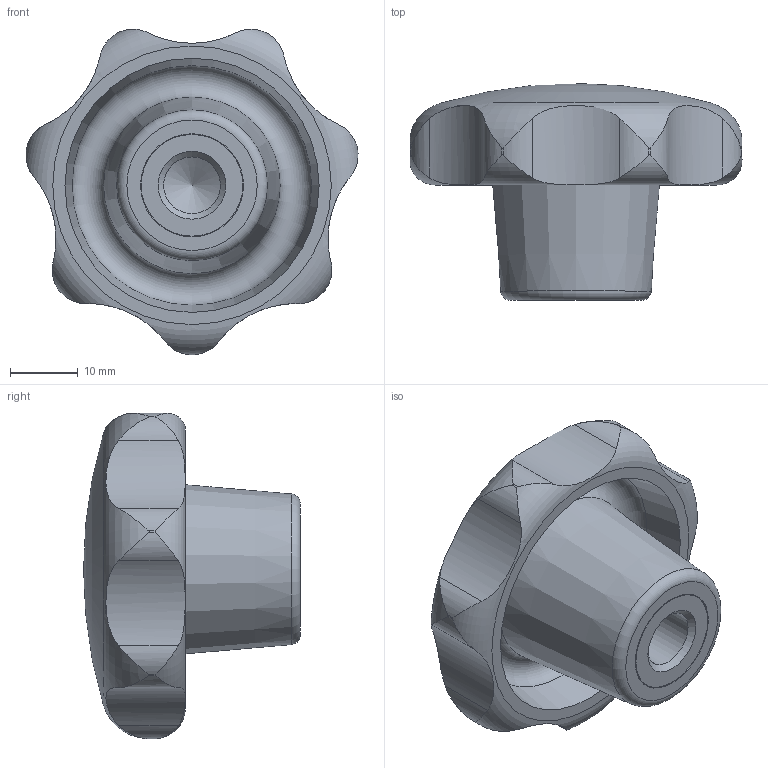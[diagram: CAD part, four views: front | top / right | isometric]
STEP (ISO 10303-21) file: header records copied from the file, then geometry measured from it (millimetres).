
FILE_DESCRIPTION( ( 'STEP AP203' ), '1' );
FILE_NAME( 'C:/Temp/Ganter_Step_05_03_2020/data/2_2/din_6336/din_6336_ku/din_6336_ku_k/Star knob DIN 6336-KU-50-M10-K-NI.stp', '2020-03-05T12:13:40', ( 'License CC BY-ND 4.0' ), ( 'CADENAS' ), ' ', 'PARTsolutions', ' ' );
FILE_SCHEMA( ( 'CONFIG_CONTROL_DESIGN' ) );
Length unit declared in the file: millimetre
Products named in the file (1): _Star knob DIN 6336-KU-50-M10-K-NI
Bounding box: 48.99 x 32 x 48.02 mm (x, y, z)
Volume: 23485.4 mm3; surface area: 7613.8 mm2
Topology: 1 solids, 1 shells, 44 faces, 115 edges, 75 vertices
Faces by surface type: cylinder 31, torus 4, plane 4, cone 4, sphere 1
Full cylindrical faces by diameter (mm): 8.376 x1, 15 x1, 15.2 x1
Entity records: 2022 total; most frequent: CARTESIAN_POINT 1027, ORIENTED_EDGE 196, DIRECTION 174, EDGE_CURVE 98, AXIS2_PLACEMENT_3D 73, VERTEX_POINT 72, EDGE_LOOP 58, FACE_OUTER_BOUND 51
